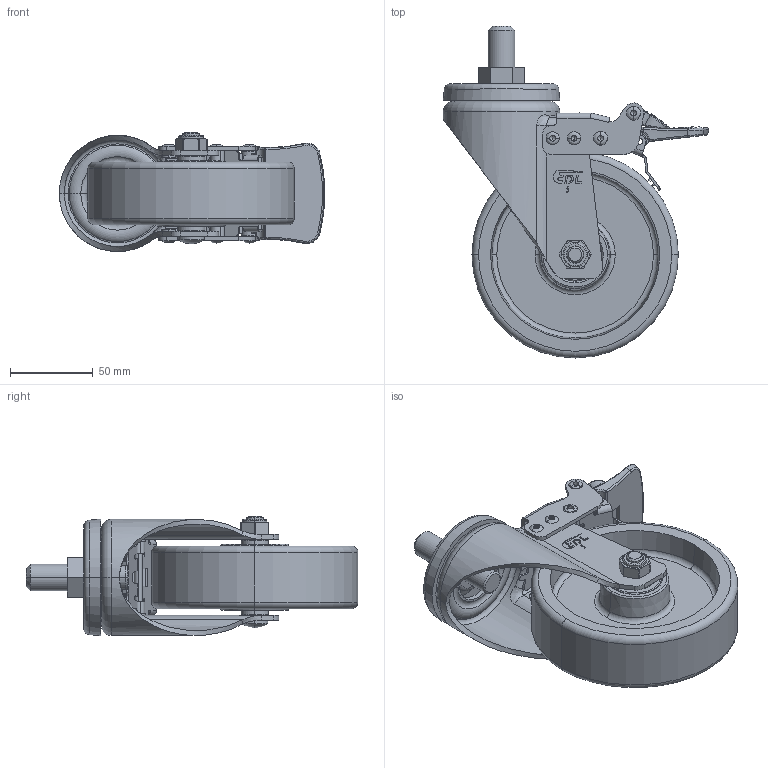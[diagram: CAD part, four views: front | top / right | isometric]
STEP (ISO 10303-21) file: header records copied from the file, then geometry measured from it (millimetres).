
FILE_DESCRIPTION((''),'2;1');
FILE_NAME('66145H-675-86A_ASM_1_ASM','2024-04-28T',('Lenovo'),(''),'PRO/ENGINEER BY PARAMETRIC TECHNOLOGY CORPORATION, 2010280','PRO/ENGINEER BY PARAMETRIC TECHNOLOGY CORPORATION, 2010280','');
FILE_SCHEMA(('CONFIG_CONTROL_DESIGN'));
Length unit declared in the file: millimetre
Products named in the file (38): 6610-053M16X25_2; 6610-251_1; 6615-311_4; 675-986A_3; MANIFOLD_SOLID_BREP_13945; MANIFOLD_SOLID_BREP_14313; MANIFOLD_SOLID_BREP_14351; MANIFOLD_SOLID_BREP_14389; MANIFOLD_SOLID_BREP_14427; MANIFOLD_SOLID_BREP_14465; MANIFOLD_SOLID_BREP_14503; MANIFOLD_SOLID_BREP_14541; MANIFOLD_SOLID_BREP_14579; MANIFOLD_SOLID_BREP_14617; MANIFOLD_SOLID_BREP_14655; MANIFOLD_SOLID_BREP_14693; MANIFOLD_SOLID_BREP_14731; MANIFOLD_SOLID_BREP_14769; MANIFOLD_SOLID_BREP_14807; 6201_1_ASM; 500-66_3; 630-54A_1; 675-86A_ASM_1_ASM; 630-33A_3; 630-34_4; 670-17_3; MANIFOLD_SOLID_BREP_25717; MANIFOLD_SOLID_BREP_25815; MANIFOLD_SOLID_BREP_25913; 670-64_1_ASM; MANIFOLD_SOLID_BREP_33741; MANIFOLD_SOLID_BREP_34087; MANIFOLD_SOLID_BREP_34337; 670-13_7_ASM; 671-64_5; 671-32_4; 670-32_3; 66145H-675-86A_ASM_1_ASM
Assembly tree (43 placements, depth 4):
  66145H-675-86A_ASM_1_ASM
    6610-053M16X25_2
    6610-251_1
    6615-311_4
    675-86A_ASM_1_ASM
      675-986A_3
      6201_1_ASM  x2
        MANIFOLD_SOLID_BREP_13945
        MANIFOLD_SOLID_BREP_14313
        MANIFOLD_SOLID_BREP_14351
        MANIFOLD_SOLID_BREP_14389
        MANIFOLD_SOLID_BREP_14427
        MANIFOLD_SOLID_BREP_14465
        MANIFOLD_SOLID_BREP_14503
        MANIFOLD_SOLID_BREP_14541
        MANIFOLD_SOLID_BREP_14579
        MANIFOLD_SOLID_BREP_14617
        MANIFOLD_SOLID_BREP_14655
        MANIFOLD_SOLID_BREP_14693
        MANIFOLD_SOLID_BREP_14731
        MANIFOLD_SOLID_BREP_14769
        MANIFOLD_SOLID_BREP_14807
      500-66_3  x2
      630-54A_1
    630-33A_3
    630-34_4
    670-17_3
    670-64_1_ASM
      MANIFOLD_SOLID_BREP_25717
      MANIFOLD_SOLID_BREP_25815
      MANIFOLD_SOLID_BREP_25913
    670-13_7_ASM
      MANIFOLD_SOLID_BREP_33741
      MANIFOLD_SOLID_BREP_34087
      MANIFOLD_SOLID_BREP_34337
    671-64_5
    671-32_4  x4
    670-32_3  x2
Bounding box: 160.81 x 201 x 72.29 mm (x, y, z)
Volume: 368575.8 mm3; surface area: 156882.5 mm2
Topology: 53 solids, 53 shells, 1220 faces, 3168 edges, 1956 vertices
Faces by surface type: plane 524, cylinder 328, bspline 129, sphere 90, torus 89, cone 60
Entity records: 39503 total; most frequent: CARTESIAN_POINT 12733, ORIENTED_EDGE 5532, DIRECTION 5372, EDGE_CURVE 2766, AXIS2_PLACEMENT_3D 1995, VERTEX_POINT 1762, VECTOR 1382, LINE 1382
